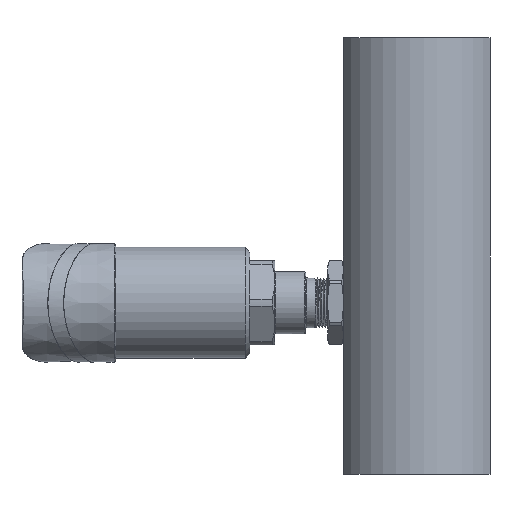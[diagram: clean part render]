
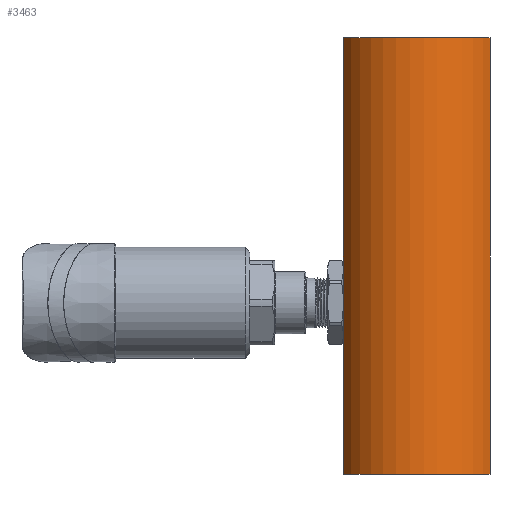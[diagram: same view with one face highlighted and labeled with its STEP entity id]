
A CAD part, left-side view. The second image highlights one B-rep face of the part: STEP entity #3463.
In plain terms, the highlighted cylindrical face has radius 26.5 mm (diameter 53 mm), a partial arc.
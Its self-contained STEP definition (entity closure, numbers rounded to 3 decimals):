
#2413=CYLINDRICAL_SURFACE('',#15211,26.5);
#2763=CIRCLE('',#15207,26.5);
#2765=CIRCLE('',#15210,26.5);
#3463=ADVANCED_FACE('',(#4383),#2413,.T.);
#4383=FACE_OUTER_BOUND('',#5209,.T.);
#5209=EDGE_LOOP('',(#9407,#9408,#9409,#9410));
#9407=ORIENTED_EDGE('',*,*,#12482,.F.);
#9408=ORIENTED_EDGE('',*,*,#12483,.T.);
#9409=ORIENTED_EDGE('',*,*,#12484,.F.);
#9410=ORIENTED_EDGE('',*,*,#12479,.T.);
#10708=VERTEX_POINT('',#31479);
#10709=VERTEX_POINT('',#31481);
#10711=VERTEX_POINT('',#31487);
#10712=VERTEX_POINT('',#31489);
#12479=EDGE_CURVE('',#10709,#10708,#2763,.T.);
#12482=EDGE_CURVE('',#10711,#10708,#13366,.T.);
#12483=EDGE_CURVE('',#10711,#10712,#2765,.T.);
#12484=EDGE_CURVE('',#10709,#10712,#13367,.T.);
#13366=LINE('',#31486,#14327);
#13367=LINE('',#31490,#14328);
#14327=VECTOR('',#17936,1.);
#14328=VECTOR('',#17939,1.);
#15207=AXIS2_PLACEMENT_3D('',#31480,#17929,#17930);
#15210=AXIS2_PLACEMENT_3D('',#31488,#17937,#17938);
#15211=AXIS2_PLACEMENT_3D('',#31491,#17940,#17941);
#17929=DIRECTION('',(0.,0.,1.));
#17930=DIRECTION('',(1.,0.,0.));
#17936=DIRECTION('',(0.,0.,-1.));
#17937=DIRECTION('',(0.,0.,-1.));
#17938=DIRECTION('',(1.,0.,0.));
#17939=DIRECTION('',(0.,0.,1.));
#17940=DIRECTION('',(0.,0.,-1.));
#17941=DIRECTION('',(1.,0.,0.));
#31479=CARTESIAN_POINT('',(-12.263,-31.5,88.));
#31480=CARTESIAN_POINT('',(-0.016,-8.,88.));
#31481=CARTESIAN_POINT('',(-12.263,15.5,88.));
#31486=CARTESIAN_POINT('',(-12.263,-31.5,245.5));
#31487=CARTESIAN_POINT('',(-12.263,-31.5,228.));
#31488=CARTESIAN_POINT('',(-0.016,-8.,228.));
#31489=CARTESIAN_POINT('',(-12.263,15.5,228.));
#31490=CARTESIAN_POINT('',(-12.263,15.5,245.5));
#31491=CARTESIAN_POINT('',(-0.016,-8.,245.5));
